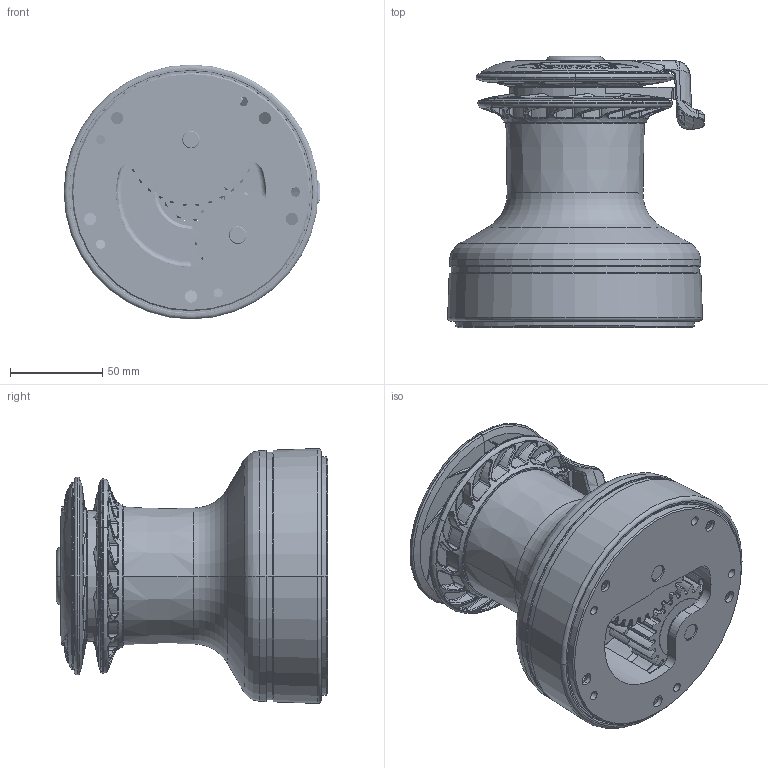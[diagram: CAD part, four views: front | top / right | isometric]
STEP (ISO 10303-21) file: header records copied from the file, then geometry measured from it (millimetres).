
FILE_DESCRIPTION((''),'2;1');
FILE_NAME('X_OEM_30_01_SW0001','2010-02-01T',('RFields'),(''),'PRO/ENGINEER BY PARAMETRIC TECHNOLOGY CORPORATION, 2007030','PRO/ENGINEER BY PARAMETRIC TECHNOLOGY CORPORATION, 2007030','');
FILE_SCHEMA(('CONFIG_CONTROL_DESIGN'));
Length unit declared in the file: millimetre
Products named in the file (1): X_OEM_30_01_SW0001
Bounding box: 138.88 x 146.75 x 137.86 mm (x, y, z)
Volume: 710949.6 mm3; surface area: 308727.8 mm2
Topology: 4 solids, 4 shells, 6246 faces, 17343 edges, 11202 vertices
Faces by surface type: plane 2879, cylinder 1064, extrusion 701, cone 662, bspline 527, torus 406, sphere 7
Entity records: 237496 total; most frequent: CARTESIAN_POINT 86294, ORIENTED_EDGE 34666, DIRECTION 27075, EDGE_CURVE 17333, VERTEX_POINT 11202, AXIS2_PLACEMENT_3D 9176, VECTOR 8723, LINE 8022
